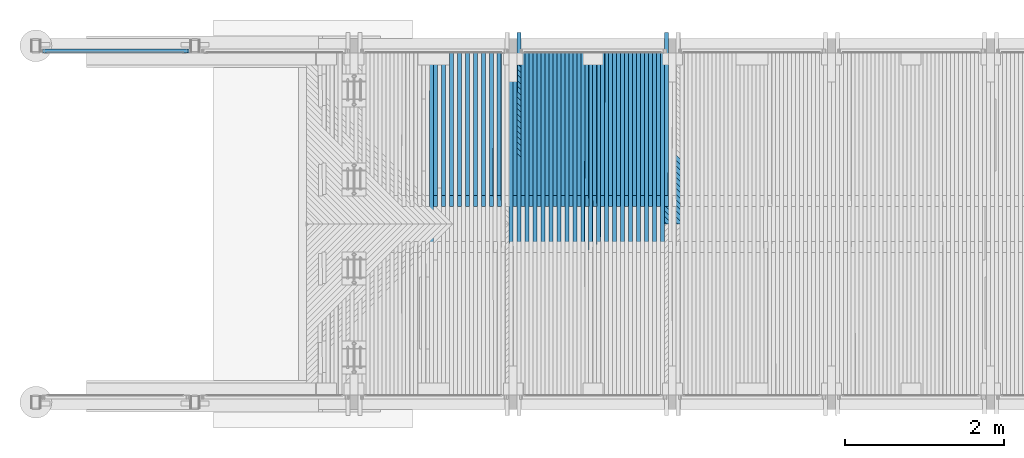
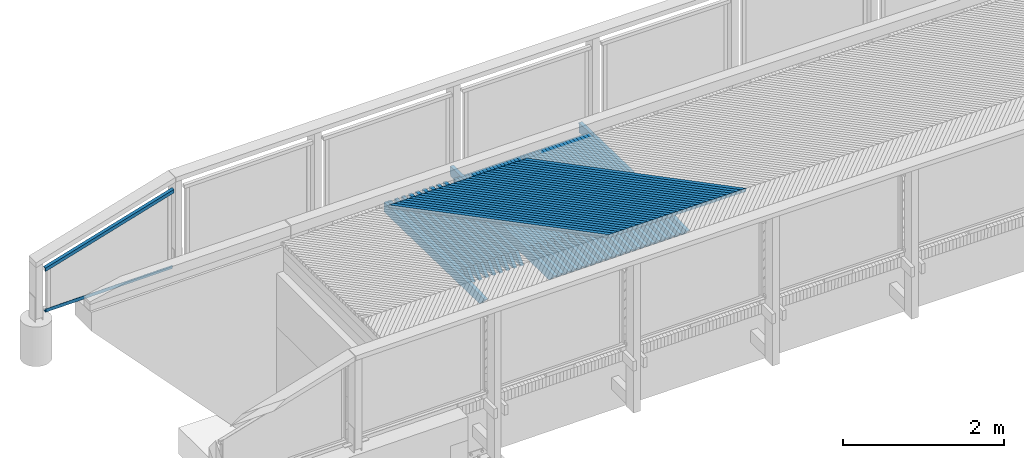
# One storey, part 20 of 65: 80 beams.
"""IFC2X3 building model written with IfcOpenShell, lengths in millimetres."""

import ifcopenshell
import ifcopenshell.guid

model = None  # the IFC model being written
_history = None  # IfcOwnerHistory: only IFC2X3 demands one
_inside = {}  # id of a spatial element -> (the spatial element, [elements in it])
_under = {}  # id of a project, library or spatial element -> (it, [spatial elements below it])
_declared = {}  # id of a project -> (the project, [libraries it declares])
_typed = {}  # id of a type object -> (the type object, [elements of that type])
_made_of = {}  # id of a material, layer set ... -> (it, [elements and type objects made of it])


def new_model(schema):
    """Start an empty IFC model of exactly this schema.

    Asked for "IFC4X3", IfcOpenShell would pick the latest addendum, in which some entities
    have other attributes; the version numbers below select the first issue.
    IFC2X3 requires an IfcOwnerHistory on every rooted entity: one is made here for all.
    """
    global model, _history
    if schema == "IFC4X3":
        model = ifcopenshell.file(schema_version=(4, 3, 0, 0))
    else:
        model = ifcopenshell.file(schema=schema)
    _inside.clear()
    _under.clear()
    _declared.clear()
    _typed.clear()
    _made_of.clear()
    _history = None
    if model.schema == "IFC2X3":
        org = make("IfcOrganization", Name="unknown")
        user = make(
            "IfcPersonAndOrganization",
            ThePerson=make("IfcPerson", FamilyName="unknown"),
            TheOrganization=org,
        )
        app = make(
            "IfcApplication",
            ApplicationDeveloper=org,
            Version="unknown",
            ApplicationFullName="unknown",
            ApplicationIdentifier="unknown",
        )
        _history = make(
            "IfcOwnerHistory",
            OwningUser=user,
            OwningApplication=app,
            ChangeAction="ADDED",
            CreationDate=0,
        )
    return model


def make(cls, **values):
    """One entity of the class cls with the attributes given. An attribute that is None is left unset."""
    return model.create_entity(
        cls, **{name: value for name, value in values.items() if value is not None}
    )


def rooted(cls, **values):
    """An entity with a GlobalId (a new one), such as an element, a storey or a relation."""
    return make(cls, GlobalId=ifcopenshell.guid.new(), OwnerHistory=_history, **values)


def si_unit(unit_type, name, prefix=None):
    """IfcSIUnit, for example si_unit("LENGTHUNIT", "METRE", prefix="MILLI")."""
    return make("IfcSIUnit", UnitType=unit_type, Prefix=prefix, Name=name)


def assignment(units):
    """IfcUnitAssignment: the units of a project."""
    return None if units is None else make("IfcUnitAssignment", Units=units)


def point(xyz):
    """IfcCartesianPoint."""
    return None if xyz is None else make("IfcCartesianPoint", Coordinates=xyz)


def direction(xyz):
    """IfcDirection."""
    return None if xyz is None else make("IfcDirection", DirectionRatios=xyz)


def frame(location, z_axis=None, x_axis=None):
    """IfcAxis2Placement3D, a coordinate frame: its origin and axes. An axis left out is left unset."""
    return make(
        "IfcAxis2Placement3D",
        Location=point(location),
        Axis=direction(z_axis),
        RefDirection=direction(x_axis),
    )


def origin_with_axes():
    """The frame at (0, 0, 0) with the z axis (0, 0, 1) and the x axis (1, 0, 0) written out."""
    return frame((0.0, 0.0, 0.0), z_axis=(0.0, 0.0, 1.0), x_axis=(1.0, 0.0, 0.0))


def place(relative_to, where):
    """IfcLocalPlacement: puts the frame where relative to a parent placement (None: the world)."""
    return make(
        "IfcLocalPlacement", PlacementRelTo=relative_to, RelativePlacement=where
    )


def context(
    kind, dimensions, precision=None, world=None, true_north=None, identifier=None
):
    """IfcGeometricRepresentationContext, for example the 3D "Model" context."""
    return make(
        "IfcGeometricRepresentationContext",
        ContextIdentifier=identifier,
        ContextType=kind,
        CoordinateSpaceDimension=dimensions,
        Precision=precision,
        WorldCoordinateSystem=world,
        TrueNorth=true_north,
    )


def subcontext(parent, identifier, kind, view, scale=None):
    """IfcGeometricRepresentationSubContext, for example "Body" below "Model"."""
    return make(
        "IfcGeometricRepresentationSubContext",
        ContextIdentifier=identifier,
        ContextType=kind,
        ParentContext=parent,
        TargetScale=scale,
        TargetView=view,
    )


def project(units=None, contexts=None):
    """IfcProject with its units and contexts."""
    return rooted(
        "IfcProject",
        Name="project",
        RepresentationContexts=contexts,
        UnitsInContext=assignment(units),
    )


def spatial(cls, under=None, at=None, **own):
    """A site, building, storey or space (cls), placed at a placement, below another one or the project."""
    s = rooted(cls, ObjectPlacement=at, **own)
    if under is not None:
        _under.setdefault(under.id(), (under, []))[1].append(s)
    return s


def faces_of(points, faces, orient=None, outer=None):
    """IfcFace entities. A face is a list of loops; a loop is a list of indices into points, from 0.

    orient and outer hold one flag for each loop. By default every Orientation is true, the
    first loop of a face is its IfcFaceOuterBound and the others are IfcFaceBound.
    """
    made = []
    for i, loops in enumerate(faces):
        bounds = []
        for j, loop in enumerate(loops):
            is_outer = j == 0 if outer is None else outer[i][j]
            bounds.append(
                make(
                    "IfcFaceOuterBound" if is_outer else "IfcFaceBound",
                    Bound=make("IfcPolyLoop", Polygon=[points[k] for k in loop]),
                    Orientation=True if orient is None else orient[i][j],
                )
            )
        made.append(make("IfcFace", Bounds=bounds))
    return made


def faceted_brep(points, faces, orient=None, outer=None, voids=None):
    """IfcFacetedBrep: a solid bounded by flat faces; with voids (closed shells), ...WithVoids."""
    shared = [point(p) for p in points]
    hull = make("IfcClosedShell", CfsFaces=faces_of(shared, faces, orient, outer))
    if voids is None:
        return make("IfcFacetedBrep", Outer=hull)
    return make(
        "IfcFacetedBrepWithVoids",
        Outer=hull,
        Voids=[
            make(cls, CfsFaces=faces_of(shared, fs, o, b)) for cls, fs, o, b in voids
        ],
    )


def shape(context_of_items, identifier, shape_type, items):
    """IfcShapeRepresentation: the items that make up one representation, for example the "Body"."""
    return make(
        "IfcShapeRepresentation",
        ContextOfItems=context_of_items,
        RepresentationIdentifier=identifier,
        RepresentationType=shape_type,
        Items=items,
    )


def material(Name=None, Category=None):
    """IfcMaterial."""
    return make("IfcMaterial", Name=Name, Category=Category)


def made_of(thing, what):
    """Note that an element or type object is made of a material, layer set ...; save() writes the relation."""
    if what is not None:
        _made_of.setdefault(what.id(), (what, []))[1].append(thing)
    return thing


def type_object(cls, material=None, **own):
    """A type object (cls), such as IfcWallType, which elements share."""
    return made_of(rooted(cls, **own), material)


def element(
    cls,
    number,
    at=None,
    inside=None,
    cuts=None,
    type_object=None,
    material=None,
    context=None,
    identifier="Body",
    shape_type=None,
    held_by="IfcProductDefinitionShape",
    body=None,
    shapes=None,
    **own,
):
    """One element of the class cls, such as IfcWall. Its Tag is "e" and its number.

    at: its placement. inside: the storey or other place that contains it. cuts: it is an
    opening in that element (IfcRelVoidsElement). A single representation is given by context,
    identifier, shape_type and body (its items); several are given by shapes. held_by: the class
    of the entity that holds the representations. save() writes the other relations.
    """
    e = rooted(cls, Tag="e%d" % number, ObjectPlacement=at, **own)
    if body is not None:
        shapes = [shape(context, identifier, shape_type, body)]
    if shapes is not None:
        e.Representation = make(held_by, Representations=shapes)
    if inside is not None:
        _inside.setdefault(inside.id(), (inside, []))[1].append(e)
    if cuts is not None:
        rooted(
            "IfcRelVoidsElement", RelatingBuildingElement=cuts, RelatedOpeningElement=e
        )
    if type_object is not None:
        _typed.setdefault(type_object.id(), (type_object, []))[1].append(e)
    return made_of(e, material)


def aggregate(whole, parts):
    """IfcRelAggregates: a whole, such as a stair, and the parts it consists of."""
    return rooted("IfcRelAggregates", RelatingObject=whole, RelatedObjects=parts)


def save(model, path):
    """Write the relations noted so far, then the file.

    IfcRelAggregates (storeys below a building ...), IfcRelContainedInSpatialStructure (elements
    in a storey), IfcRelDefinesByType, IfcRelAssociatesMaterial and IfcRelDeclares: one each for
    every whole, place, type object, material and project.
    """
    for whole, parts in _under.values():
        aggregate(whole, parts)
    for where, things in _inside.values():
        rooted(
            "IfcRelContainedInSpatialStructure",
            RelatedElements=things,
            RelatingStructure=where,
        )
    for kind, things in _typed.values():
        rooted("IfcRelDefinesByType", RelatedObjects=things, RelatingType=kind)
    for what, things in _made_of.values():
        rooted("IfcRelAssociatesMaterial", RelatedObjects=things, RelatingMaterial=what)
    for by, libraries in _declared.values():
        rooted("IfcRelDeclares", RelatingContext=by, RelatedDefinitions=libraries)
    model.write(path)


model = new_model("IFC2X3")

# Units and contexts
model_context = context("Model", 3, precision=1e-05, world=origin_with_axes())
body_context = subcontext(model_context, "Body", "Model", "MODEL_VIEW")
ifc_project = project(units=[si_unit("LENGTHUNIT", "METRE", prefix="MILLI"), si_unit("AREAUNIT", "SQUARE_METRE"), si_unit("VOLUMEUNIT", "CUBIC_METRE"), si_unit("MASSUNIT", "GRAM", prefix="KILO"), si_unit("TIMEUNIT", "SECOND"), si_unit("PLANEANGLEUNIT", "RADIAN"), si_unit("SOLIDANGLEUNIT", "STERADIAN"), si_unit("THERMODYNAMICTEMPERATUREUNIT", "DEGREE_CELSIUS"), si_unit("LUMINOUSINTENSITYUNIT", "LUMEN")], contexts=[model_context])

# Site, building, storey
site_placement = place(None, origin_with_axes())
site = spatial("IfcSite", under=ifc_project, at=site_placement, Name="Undefined", CompositionType="ELEMENT")
building_placement = place(site_placement, origin_with_axes())
building = spatial("IfcBuilding", under=site, at=building_placement, Name="Undefined", CompositionType="ELEMENT")
storey_placement = place(building_placement, origin_with_axes())
storey = spatial("IfcBuildingStorey", under=building, at=storey_placement, Name="Undefined", CompositionType="ELEMENT", Elevation=0.0)

# Beams
ifc_material_1 = material(Name="STEEL/S235JR")
beam_type_1 = type_object("IfcBeamType", Name="L50*5", PredefinedType="NOTDEFINED")
beam_1_placement = place(storey_placement, frame((-3917.37287518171, 24539.9900000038, 3179.93130555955), z_axis=(0.0, 1.0, 0.0), x_axis=(0.999888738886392, 0.0, 0.0149167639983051)))
element("IfcBeam", 1, at=beam_1_placement, inside=storey, type_object=beam_type_1, material=ifc_material_1, Name="BEAM", ObjectType="L50*5", context=body_context, shape_type="Brep", body=[
    faceted_brep([(4.50264671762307, 24.9999999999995, -25.0), (4.50264671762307, 24.9999999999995, 25.0), (1829.70266874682, 24.9999999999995, 25.0), (1829.70266874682, 24.9999999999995, -25.0), (4.57723883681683, 20.0000000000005, 25.0), (1829.77726086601, 20.0, 25.0), (4.57723883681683, 20.0000000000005, -20.0), (1829.77726086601, 20.0, -20.0), (5.24856790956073, -25.0, -20.0), (1830.44858993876, -25.0, -20.0), (5.24856790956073, -25.0, -25.0), (1830.44858993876, -25.0, -25.0)], [[[0, 1, 2, 3]], [[1, 4, 5, 2]], [[4, 6, 7, 5]], [[6, 8, 9, 7]], [[8, 10, 11, 9]], [[10, 0, 3, 11]], [[5, 7, 9, 11, 3, 2]], [[10, 8, 6, 4, 1, 0]]]),
])
beam_2_placement = place(storey_placement, frame((-2058.64196654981, 24539.9899999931, 4353.96387868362), z_axis=(0.0, 1.0, 0.0), x_axis=(-0.958216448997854, 0.0, -0.286044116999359)))
element("IfcBeam", 2, at=beam_2_placement, inside=storey, type_object=beam_type_1, material=ifc_material_1, Name="BEAM", ObjectType="L50*5", context=body_context, shape_type="Brep", body=[
    faceted_brep([(1.77780308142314, 25.0, -25.0), (1.77780308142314, 25.0, 25.0), (1932.45443198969, 25.0, 25.0), (1932.45443198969, 25.0, -25.0), (3.27038921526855, 20.0, 25.0), (1933.94701812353, 20.0, 25.0), (3.27038921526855, 20.0, -20.0), (1933.94701812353, 20.0, -20.0), (16.7036644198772, -25.0, -20.0), (1947.38029332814, -25.0, -20.0), (16.7036644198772, -25.0, -25.0), (1947.38029332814, -25.0, -25.0)], [[[0, 1, 2, 3]], [[1, 4, 5, 2]], [[4, 6, 7, 5]], [[6, 8, 9, 7]], [[8, 10, 11, 9]], [[10, 0, 3, 11]], [[5, 7, 9, 11, 3, 2]], [[10, 8, 6, 4, 1, 0]]]),
])
ifc_material_2 = material(Name="TIMBER/Timber_Undefined")
beam_type_2 = type_object("IfcBeamType", Name="50*50", PredefinedType="NOTDEFINED")
for number, where, z_axis, x_axis, name in (
    (3, (4882.50574585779, 22365.4998996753, 3228.05141176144), (0.707171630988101, 0.706981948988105, -0.00920913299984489), (-0.707007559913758, 0.706948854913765, -0.0190689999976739), "BEAM"),
    (4, (4811.78248202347, 22365.4998996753, 3227.68107523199), (0.707172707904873, 0.7069819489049, -0.00912606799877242), (-0.707005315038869, 0.706948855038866, -0.0191520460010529), "BEAM"),
    (5, (4741.05926217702, 22365.4998996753, 3227.30243150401), (0.707173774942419, 0.706981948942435, -0.00904300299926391), (-0.707003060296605, 0.706948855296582, -0.0192350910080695), "BEAM"),
    (6, (4670.33608729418, 22365.4998996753, 3226.91548058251), (0.707174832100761, 0.706981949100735, -0.00895993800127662), (-0.707000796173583, 0.706948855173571, -0.019318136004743), "BEAM"),
    (7, (4599.61295835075, 22365.4998996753, 3226.52022247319), (0.707175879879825, 0.706981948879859, -0.00887687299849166), (-0.706998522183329, 0.706948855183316, -0.0194011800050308), "BEAM"),
    (8, (4528.88987632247, 22365.4998996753, 3226.11665718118), (0.707176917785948, 0.706981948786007, -0.00879380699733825), (-0.706996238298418, 0.706948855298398, -0.0194842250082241), "BEAM"),
    (9, (4458.16684218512, 22365.4998996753, 3225.70478471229), (0.707177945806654, 0.706981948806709, -0.00871074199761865), (-0.706993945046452, 0.706948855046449, -0.0195672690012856), "BEAM"),
    (10, (4387.44385691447, 22365.4998996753, 3225.284605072), (0.707178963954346, 0.70698194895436, -0.00862767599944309), (-0.706991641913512, 0.706948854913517, -0.0196503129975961), "BEAM"),
    (11, (4316.72092148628, 22365.4998996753, 3224.85611826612), (0.707179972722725, 0.706981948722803, -0.00854460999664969), (-0.706989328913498, 0.706948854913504, -0.0197333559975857), "BEAM"),
    (12, (4245.99803687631, 22365.4998996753, 3224.41932430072), (0.707180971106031, 0.706981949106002, -0.0084615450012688), (-0.706987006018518, 0.706948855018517, -0.019816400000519), "BEAM"),
    (13, (4175.27520406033, 22365.4998996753, 3223.97422318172), (0.707181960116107, 0.706981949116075, -0.00837847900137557), (-0.70698467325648, 0.706948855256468, -0.0198994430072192), "BEAM"),
    (14, (4104.5524240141, 22365.4998996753, 3223.52081491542), (0.707182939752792, 0.706981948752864, -0.00829541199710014), (-0.706982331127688, 0.706948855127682, -0.019982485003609), "BEAM"),
    (15, (4033.82969771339, 22365.4998996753, 3223.05909950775), (0.707183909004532, 0.706981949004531, -0.00821234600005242), (-0.706979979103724, 0.70694885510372, -0.0200655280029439), "BEAM"),
    (16, (3963.10702613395, 22365.4998996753, 3222.58907696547), (0.707184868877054, 0.70698194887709, -0.00812927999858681), (-0.706977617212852, 0.706948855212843, -0.0201485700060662), "BEAM"),
    (17, (3892.38441025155, 22365.4998996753, 3222.11074729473), (0.707185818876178, 0.706981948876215, -0.00804621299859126), (-0.706975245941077, 0.706948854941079, -0.0202316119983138), "BEAM"),
    (18, (3821.66185104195, 22365.4998996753, 3221.62411050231), (0.707186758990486, 0.706981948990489, -0.0079631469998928), (-0.706972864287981, 0.706948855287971, -0.020314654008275), "BEAM"),
    (19, (3750.93934948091, 22365.4998996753, 3221.12916659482), (0.707187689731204, 0.706981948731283, -0.00788007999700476), (-0.706970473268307, 0.706948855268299, -0.0203976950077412), "BEAM"),
    (20, (3680.21690654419, 22365.4998996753, 3220.62591557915), (0.707188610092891, 0.706981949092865, -0.00779701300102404), (-0.70696807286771, 0.706948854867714, -0.0204807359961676), "BEAM"),
    (21, (3609.49452320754, 22365.4998996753, 3220.11435746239), (0.707189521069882, 0.706981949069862, -0.00771394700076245), (-0.70696566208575, 0.706948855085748, -0.0205637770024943), "BEAM"),
    (22, (3538.77220044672, 22365.4998996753, 3219.59449225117), (0.707190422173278, 0.706981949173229, -0.00763088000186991), (-0.706963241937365, 0.706948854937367, -0.0206468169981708), "BEAM"),
    (23, (3468.04993923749, 22365.4998996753, 3219.06631995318), (0.707191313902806, 0.706981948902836, -0.00754781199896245), (-0.706960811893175, 0.706948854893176, -0.0207298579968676), "BEAM"),
    (24, (3397.3277405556, 22365.4998996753, 3218.52984057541), (0.707192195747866, 0.706981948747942, -0.00746474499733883), (-0.70695837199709, 0.706948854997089, -0.0208128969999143), "BEAM"),
    (25, (3326.60560537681, 22365.4998996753, 3217.98505412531), (0.707193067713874, 0.70698194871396, -0.00738167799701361), (-0.706955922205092, 0.70694885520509, -0.0208959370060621), "BEAM"),
    (26, (3255.88353467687, 22365.4998996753, 3217.43196061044), (0.707193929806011, 0.70698194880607, -0.00729860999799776), (-0.706953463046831, 0.706948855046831, -0.0209789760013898), "BEAM"),
    (27, (3185.16152943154, 22365.4998996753, 3216.87056003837), (0.707194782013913, 0.70698194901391, -0.00721554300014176), (-0.706950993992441, 0.706948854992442, -0.0210620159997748), "BEAM"),
    (28, (3114.43959061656, 22365.4998996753, 3216.30085241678), (0.707195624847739, 0.706981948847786, -0.00713247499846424), (-0.706948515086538, 0.706948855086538, -0.0211450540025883), "BEAM"),
    (29, (3043.7177192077, 22365.4998996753, 3215.72283775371), (0.707196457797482, 0.706981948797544, -0.00704940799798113), (-0.706946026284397, 0.706948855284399, -0.0212280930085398), "BEAM"),
    (30, (2972.99591618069, 22365.4998996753, 3215.13651605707), (0.707197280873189, 0.706981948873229, -0.00696633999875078), (-0.706943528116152, 0.706948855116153, -0.0213111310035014), "BEAM"),
):
    element("IfcBeam", number, at=place(storey_placement, frame(where, z_axis=z_axis, x_axis=x_axis)), inside=storey, type_object=beam_type_2, material=ifc_material_2, Name=name, ObjectType="50*50", context=body_context, shape_type="Brep", body=[
        faceted_brep([(23.5869248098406, 24.9999999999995, -24.9999999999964), (-26.4154158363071, 24.9999999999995, 24.9999999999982), (2802.92643296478, 25.0, 25.0), (2852.92877373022, 25.0000000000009, -25.0), (-25.0011704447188, -25.0, 24.9999999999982), (2804.34067830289, -25.0, 25.0000000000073), (25.0011701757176, -25.0000000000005, -24.9999999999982), (2854.34301907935, -24.9999999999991, -25.0000000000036)], [[[0, 1, 2, 3]], [[1, 4, 5, 2]], [[4, 6, 7, 5]], [[6, 0, 3, 7]], [[5, 7, 3, 2]], [[6, 4, 1, 0]]]),
    ])
beam_type_3 = type_object("IfcBeamType", Name="150*50", PredefinedType="NOTDEFINED")
for number, where, z_axis, x_axis, name in (
    (31, (3875.98195239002, 24513.4953923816, 3079.01849258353), (-0.00693257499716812, 0.0199960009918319, 0.99977602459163), (-0.000138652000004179, -0.99980006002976, 0.0199955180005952), "BEAM"),
    (32, (3775.96432395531, 24513.4953923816, 3078.32495570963), (-0.007098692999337, 0.0199960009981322, 0.999774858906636), (-0.00014197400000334, -0.999800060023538, 0.0199954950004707), "BEAM"),
    (33, (3675.94681213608, 24513.4953923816, 3077.61480038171), (-0.00726481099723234, 0.0199960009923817, 0.999773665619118), (-0.000145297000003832, -0.999800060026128, 0.0199954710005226), "BEAM"),
    (34, (3575.92941969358, 24513.4953923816, 3076.88802661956), (-0.00743092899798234, 0.0199960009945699, 0.999772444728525), (-0.000148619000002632, -0.999800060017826, 0.0199954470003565), "BEAM"),
    (35, (3475.91214938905, 24513.4953923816, 3076.1446344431), (-0.00759704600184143, 0.0199960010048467, 0.99977119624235), (-0.000151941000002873, -0.999800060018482, 0.0199954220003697), "BEAM"),
    (36, (3375.89500398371, 24513.4953923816, 3075.38462387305), (-0.00776316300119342, 0.0199960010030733, 0.999769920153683), (-0.000155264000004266, -0.999800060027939, 0.0199953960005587), "BEAM"),
    (37, (3275.87798623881, 24513.4953923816, 3074.60799493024), (-0.0079292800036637, 0.019996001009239, 0.99976861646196), (-0.000158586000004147, -0.999800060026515, 0.0199953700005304), "BEAM"),
    (38, (3175.86109891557, 24513.4953923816, 3073.81474763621), (-0.00809539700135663, 0.0199960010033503, 0.999767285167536), (-0.000161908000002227, -0.999800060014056, 0.0199953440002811), "BEAM"),
    (39, (3075.84434477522, 24513.4953923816, 3073.00488201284), (-0.00826151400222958, 0.0199960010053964, 0.999765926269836), (-0.00016523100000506, -0.999800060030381, 0.0199953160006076), "BEAM"),
    (40, (2975.82772657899, 24513.4953923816, 3072.1783980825), (-0.00842762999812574, 0.0199960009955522, 0.999764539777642), (-0.0001685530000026, -0.999800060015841, 0.0199952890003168), "BEAM"),
    (41, (2875.81124708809, 24513.4953923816, 3071.33529586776), (-0.00859374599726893, 0.0199960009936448, 0.999763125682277), (-0.000171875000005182, -0.999800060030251, 0.019995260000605), "BEAM"),
    (42, (2775.79490906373, 24513.4953923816, 3070.47557539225), (-0.00875986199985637, 0.0199960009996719, 0.999761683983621), (-0.000175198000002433, -0.999800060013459, 0.0199952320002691), "BEAM"),
    (43, (2675.77871526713, 24513.4953923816, 3069.5992366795), (-0.00892597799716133, 0.0199960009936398, 0.999760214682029), (-0.000178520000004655, -0.999800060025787, 0.0199952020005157), "BEAM"),
    (44, (2575.76266845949, 24513.4953923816, 3068.70627975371), (-0.00909209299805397, 0.0199960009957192, 0.999758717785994), (-0.000181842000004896, -0.999800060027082, 0.0199951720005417), "BEAM"),
    (45, (2475.74677140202, 24513.4953923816, 3067.79670463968), (-0.00925820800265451, 0.0199960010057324, 0.999757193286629), (-0.000185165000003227, -0.999800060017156, 0.019995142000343), "BEAM"),
    (46, (2375.73102685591, 24513.4953923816, 3066.87051136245), (-0.00942432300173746, 0.0199960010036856, 0.999755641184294), (-0.000188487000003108, -0.999800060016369, 0.0199951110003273), "BEAM"),
    (47, (2275.71543758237, 24513.4953923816, 3065.9276999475), (-0.00959043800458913, 0.0199960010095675, 0.999754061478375), (-0.00019180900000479, -0.999800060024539, 0.0199950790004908), "BEAM"),
    (48, (2175.70000634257, 24513.4953923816, 3064.96827042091), (-0.00975655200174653, 0.0199960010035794, 0.999752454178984), (-0.00019513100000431, -0.999800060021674, 0.0199950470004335), "BEAM"),
):
    element("IfcBeam", number, at=place(storey_placement, frame(where, z_axis=z_axis, x_axis=x_axis)), inside=storey, type_object=beam_type_3, material=ifc_material_2, Name=name, ObjectType="150*50", context=body_context, shape_type="Brep", body=[
        faceted_brep([(-1.6778358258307e-07, -24.9999999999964, -74.9999999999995), (-1.6778358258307e-07, 25.0000000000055, -75.0), (2375.00494422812, 25.0000000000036, -75.0), (2375.00494447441, -24.9999999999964, -74.9999999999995), (1.67790858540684e-07, -24.9999999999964, 75.0000000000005), (1.67790858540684e-07, 25.0000000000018, 74.9999999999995), (2150.42515052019, 25.0000000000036, 74.9999999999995), (2510.59248715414, 25.0000000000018, 60.5875433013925), (2510.59248714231, -24.9999999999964, 60.5875430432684), (2150.42514405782, -24.9999999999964, 75.0000000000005)], [[[0, 1, 2, 3]], [[0, 4, 5, 1]], [[2, 1, 5, 6, 7]], [[3, 2, 7, 8]], [[4, 0, 3, 8, 9]], [[5, 4, 9, 6]], [[8, 7, 6, 9]]]),
    ])
for number, where, z_axis, x_axis, name in (
    (49, (3825.98315440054, 24513.4953923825, 3078.67179443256), (-0.00693257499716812, 0.0199960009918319, 0.99977602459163), (-0.000138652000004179, -0.99980006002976, 0.0199955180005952), "BEAM"),
    (50, (3725.96558426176, 24513.4953923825, 3077.96994999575), (-0.007098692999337, 0.0199960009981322, 0.999774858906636), (-0.00014197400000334, -0.999800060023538, 0.0199954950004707), "BEAM"),
    (51, (3625.9481321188, 24513.4953923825, 3077.25148711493), (-0.00726481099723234, 0.0199960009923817, 0.999773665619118), (-0.000145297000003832, -0.999800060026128, 0.0199954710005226), "BEAM"),
    (52, (3525.93080073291, 24513.4953923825, 3076.51640581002), (-0.00743092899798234, 0.0199960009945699, 0.999772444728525), (-0.000148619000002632, -0.999800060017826, 0.0199954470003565), "BEAM"),
    (53, (3425.91359286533, 24513.4953923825, 3075.76470610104), (-0.00759704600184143, 0.0199960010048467, 0.99977119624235), (-0.000151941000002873, -0.999800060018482, 0.0199954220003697), "BEAM"),
    (54, (3325.89651127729, 24513.4953923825, 3074.99638800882), (-0.00776316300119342, 0.0199960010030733, 0.999769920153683), (-0.000155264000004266, -0.999800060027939, 0.0199953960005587), "BEAM"),
    (55, (3225.87955873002, 24513.4953923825, 3074.21145155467), (-0.0079292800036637, 0.019996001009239, 0.99976861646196), (-0.000158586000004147, -0.999800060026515, 0.0199953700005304), "BEAM"),
    (56, (3125.86273798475, 24513.4953923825, 3073.40989676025), (-0.00809539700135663, 0.0199960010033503, 0.999767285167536), (-0.000161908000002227, -0.999800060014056, 0.0199953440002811), "BEAM"),
    (57, (3025.84605180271, 24513.4953923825, 3072.59172364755), (-0.00826151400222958, 0.0199960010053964, 0.999765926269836), (-0.00016523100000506, -0.999800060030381, 0.0199953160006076), "BEAM"),
    (58, (2925.82950294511, 24513.4953923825, 3071.75693223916), (-0.00842762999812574, 0.0199960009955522, 0.999764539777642), (-0.0001685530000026, -0.999800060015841, 0.0199952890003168), "BEAM"),
    (59, (2825.81309417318, 24513.4953923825, 3070.90552255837), (-0.00859374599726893, 0.0199960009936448, 0.999763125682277), (-0.000171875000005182, -0.999800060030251, 0.019995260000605), "BEAM"),
    (60, (2725.79682824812, 24513.4953923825, 3070.03749462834), (-0.00875986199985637, 0.0199960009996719, 0.999761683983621), (-0.000175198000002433, -0.999800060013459, 0.0199952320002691), "BEAM"),
    (61, (2625.78070793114, 24513.4953923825, 3069.1528484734), (-0.00892597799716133, 0.0199960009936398, 0.999760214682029), (-0.000178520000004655, -0.999800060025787, 0.0199952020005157), "BEAM"),
    (62, (2525.76473598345, 24513.4953923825, 3068.25158411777), (-0.00909209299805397, 0.0199960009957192, 0.999758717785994), (-0.000181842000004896, -0.999800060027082, 0.0199951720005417), "BEAM"),
    (63, (2425.74891516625, 24513.4953923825, 3067.33370158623), (-0.00925820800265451, 0.0199960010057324, 0.999757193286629), (-0.000185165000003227, -0.999800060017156, 0.019995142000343), "BEAM"),
    (64, (2325.73324824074, 24513.4953923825, 3066.39920090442), (-0.00942432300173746, 0.0199960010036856, 0.999755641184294), (-0.000188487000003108, -0.999800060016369, 0.0199951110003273), "BEAM"),
    (65, (2225.7177379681, 24513.4953923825, 3065.44808209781), (-0.00959043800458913, 0.0199960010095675, 0.999754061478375), (-0.00019180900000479, -0.999800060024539, 0.0199950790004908), "BEAM"),
    (66, (2125.70238710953, 24513.4953923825, 3064.48034519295), (-0.00975655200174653, 0.0199960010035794, 0.999752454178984), (-0.00019513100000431, -0.999800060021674, 0.0199950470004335), "BEAM"),
):
    element("IfcBeam", number, at=place(storey_placement, frame(where, z_axis=z_axis, x_axis=x_axis)), inside=storey, type_object=beam_type_3, material=ifc_material_2, Name=name, ObjectType="150*50", context=body_context, shape_type="Brep", body=[
        faceted_brep([(-1.6778358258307e-07, -24.9999999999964, -74.9999999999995), (1.67790858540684e-07, -24.9999999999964, 75.0000000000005), (1.67790858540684e-07, 25.0000000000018, 74.9999999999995), (-1.6778358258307e-07, 25.0000000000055, -75.0), (1928.42646328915, 24.9999999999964, -75.0), (1928.42646353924, -25.0, -75.0000000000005), (1789.96936433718, -25.0000000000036, 74.9999999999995), (1789.96936408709, 24.9999999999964, 75.0)], [[[0, 1, 2, 3]], [[0, 3, 4, 5]], [[1, 0, 5, 6]], [[2, 1, 6, 7]], [[3, 2, 7, 4]], [[4, 7, 6, 5]]]),
    ])
beam_3_placement = place(storey_placement, frame((3925.42477816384, 24771.443807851, 3074.19674304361), z_axis=(-0.0067664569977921, 0.0199960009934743, 0.999777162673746), x_axis=(-0.000135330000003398, -0.999800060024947, 0.019995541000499)))
element("IfcBeam", 67, at=beam_3_placement, inside=storey, type_object=beam_type_3, material=ifc_material_2, Name="BEAM", ObjectType="150*50", context=body_context, shape_type="Brep", body=[
    faceted_brep([(-1.6778358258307e-07, -24.9999999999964, -74.9999999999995), (1.67790858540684e-07, -24.9999999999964, 75.0000000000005), (1.67790858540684e-07, 25.0000000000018, 74.9999999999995), (-1.6778358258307e-07, 25.0000000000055, -75.0), (2186.42646676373, 24.9999999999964, -74.9999999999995), (2186.42645144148, -25.0000000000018, -75.0), (2047.96935255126, -25.0000000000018, 75.0000000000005), (2047.9693678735, 24.9999999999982, 75.0)], [[[0, 1, 2, 3]], [[0, 3, 4, 5]], [[1, 0, 5, 6]], [[2, 1, 6, 7]], [[3, 2, 7, 4]], [[4, 7, 6, 5]]]),
])
beam_4_placement = place(storey_placement, frame((2075.63087990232, 24771.443807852, 3058.83247523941), z_axis=(-0.00992284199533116, 0.0199960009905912, 0.999750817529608), x_axis=(-0.000198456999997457, -0.99980005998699, 0.0199950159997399)))
element("IfcBeam", 68, at=beam_4_placement, inside=storey, type_object=beam_type_3, material=ifc_material_2, Name="BEAM", ObjectType="150*50", context=body_context, shape_type="Brep", body=[
    faceted_brep([(-1.6778358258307e-07, -24.9999999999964, -74.9999999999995), (-1.6778358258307e-07, 25.0000000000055, -75.0), (2633.00494750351, 24.9999999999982, -74.9999999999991), (2633.00494763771, -25.0000000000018, -74.9999999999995), (1.67790858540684e-07, -24.9999999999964, 75.0000000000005), (1.67790858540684e-07, 25.0000000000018, 74.9999999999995), (2408.42506824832, 24.9999999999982, 75.0000000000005), (2768.59248710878, 24.9999999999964, 60.587539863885), (2768.59248713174, -25.0000000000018, 60.5875397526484), (2408.42506549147, -25.0000000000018, 75.0000000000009)], [[[0, 1, 2, 3]], [[0, 4, 5, 1]], [[2, 1, 5, 6, 7]], [[3, 2, 7, 8]], [[4, 0, 3, 8, 9]], [[5, 4, 9, 6]], [[8, 7, 6, 9]]]),
])
for number, where, z_axis, x_axis, name in (
    (69, (1975.66962900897, 24513.4953923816, 3062.99955713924), (-0.0100889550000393, 0.0199960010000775, 0.9997491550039), (-0.000201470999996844, -0.999800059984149, 0.0199949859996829), "BEAM"),
    (70, (975.528163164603, 24513.4953923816, 3052.1589134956), (-0.011749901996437, 0.019996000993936, 0.999731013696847), (-0.000234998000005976, -0.99980006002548, 0.0199946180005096), "BEAM"),
):
    element("IfcBeam", number, at=place(storey_placement, frame(where, z_axis=z_axis, x_axis=x_axis)), inside=storey, type_object=beam_type_3, material=ifc_material_2, Name=name, ObjectType="150*50", context=body_context, shape_type="Brep", body=[
        faceted_brep([(-1.6778358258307e-07, -24.9999999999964, -74.9999999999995), (-1.6778358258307e-07, 25.0000000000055, -75.0), (2375.00494422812, 25.0000000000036, -75.0), (2375.00494447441, -24.9999999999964, -74.9999999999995), (1.67790858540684e-07, -24.9999999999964, 75.0000000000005), (1.67790858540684e-07, 25.0000000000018, 74.9999999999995), (2150.42515052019, 25.0000000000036, 74.9999999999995), (2510.59248715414, 25.0000000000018, 60.5875433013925), (2510.59248714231, -24.9999999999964, 60.5875430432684), (2150.42514405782, -24.9999999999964, 75.0000000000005)], [[[0, 1, 2, 3]], [[0, 4, 5, 1]], [[2, 1, 5, 6, 7]], [[3, 2, 7, 8]], [[4, 0, 3, 8, 9]], [[5, 4, 9, 6]], [[8, 7, 6, 9]]]),
    ])
for number, where, z_axis, x_axis, name in (
    (71, (2025.68719842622, 24513.4953923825, 3063.49599021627), (-0.00992284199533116, 0.0199960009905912, 0.999750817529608), (-0.000198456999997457, -0.99980005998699, 0.0199950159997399), "BEAM"),
    (72, (1825.65731863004, 24513.4953923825, 3061.47742615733), (-0.010254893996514, 0.0199960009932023, 0.999747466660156), (-0.000205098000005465, -0.999800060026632, 0.0199949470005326), "BEAM"),
    (73, (1725.64263303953, 24513.4953923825, 3060.44321713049), (-0.0104210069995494, 0.0199960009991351, 0.999745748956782), (-0.000208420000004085, -0.999800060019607, 0.0199949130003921), "BEAM"),
    (74, (1625.62812066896, 24513.4953923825, 3059.39239014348), (-0.0105871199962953, 0.0199960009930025, 0.99974400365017), (-0.000211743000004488, -0.999800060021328, 0.0199948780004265), "BEAM"),
    (75, (1525.61378427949, 24513.4953923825, 3058.32494522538), (-0.0107532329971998, 0.0199960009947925, 0.999742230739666), (-0.00021506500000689, -0.999800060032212, 0.0199948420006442), "BEAM"),
    (76, (1425.59962663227, 24513.4953923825, 3057.24088240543), (-0.010919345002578, 0.0199960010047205, 0.999740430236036), (-0.000218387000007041, -0.999800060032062, 0.0199948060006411), "BEAM"),
    (77, (1325.58565048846, 24513.4953923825, 3056.14020171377), (-0.011085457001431, 0.019996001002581, 0.999738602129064), (-0.00022170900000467, -0.999800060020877, 0.0199947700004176), "BEAM"),
    (78, (1225.57185860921, 24513.4953923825, 3055.02290318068), (-0.0112515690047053, 0.0199960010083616, 0.999736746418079), (-0.000225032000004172, -0.999800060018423, 0.0199947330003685), "BEAM"),
    (79, (1125.55825375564, 24513.4953923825, 3053.888986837), (-0.0114176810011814, 0.0199960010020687, 0.999734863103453), (-0.000228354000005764, -0.999800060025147, 0.0199946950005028), "BEAM"),
    (80, (1025.5448386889, 24513.4953923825, 3052.73845271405), (-0.0115837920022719, 0.0199960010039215, 0.999732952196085), (-0.000231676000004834, -0.999800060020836, 0.0199946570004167), "BEAM"),
):
    element("IfcBeam", number, at=place(storey_placement, frame(where, z_axis=z_axis, x_axis=x_axis)), inside=storey, type_object=beam_type_3, material=ifc_material_2, Name=name, ObjectType="150*50", context=body_context, shape_type="Brep", body=[
        faceted_brep([(-1.6778358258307e-07, -24.9999999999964, -74.9999999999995), (1.67790858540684e-07, -24.9999999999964, 75.0000000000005), (1.67790858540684e-07, 25.0000000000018, 74.9999999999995), (-1.6778358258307e-07, 25.0000000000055, -75.0), (1928.42646328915, 24.9999999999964, -75.0), (1928.42646353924, -25.0, -75.0000000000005), (1789.96936433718, -25.0000000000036, 74.9999999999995), (1789.96936408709, 24.9999999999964, 75.0)], [[[0, 1, 2, 3]], [[0, 3, 4, 5]], [[1, 0, 5, 6]], [[2, 1, 6, 7]], [[3, 2, 7, 4]], [[4, 7, 6, 5]]]),
    ])

save(model, "model.ifc")
